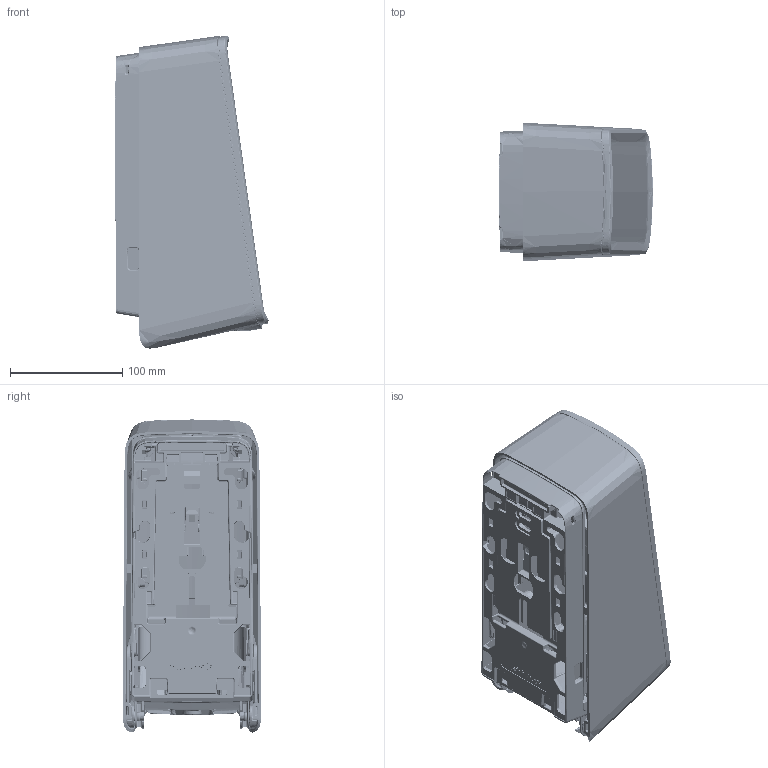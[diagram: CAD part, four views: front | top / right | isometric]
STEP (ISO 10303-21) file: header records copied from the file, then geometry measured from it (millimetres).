
FILE_DESCRIPTION (( 'STEP AP214' ), '1' );
FILE_NAME ('PureLine Liquid NT final.STEP', '2023-03-02T16:36:25', ( '' ), ( '' ), 'SwSTEP 2.0', 'SolidWorks 2023', '' );
FILE_SCHEMA (( 'AUTOMOTIVE_DESIGN' ));
Products named in the file (1): PureLine Liquid NT final
Bounding box: 136.5 x 123.2 x 278.32 mm (x, y, z)
Surface area: 462687.3 mm2 (no closed solid volume)
Topology: 0 solids, 10 shells, 12465 faces, 30376 edges, 17852 vertices
Faces by surface type: bspline 5864, cylinder 3008, plane 2491, sphere 761, cone 173, torus 168
Entity records: 513106 total; most frequent: CARTESIAN_POINT 272240, ORIENTED_EDGE 60002, DIRECTION 36947, EDGE_CURVE 30063, VERTEX_POINT 17791, AXIS2_PLACEMENT_3D 14251, EDGE_LOOP 12810, FACE_OUTER_BOUND 12465
